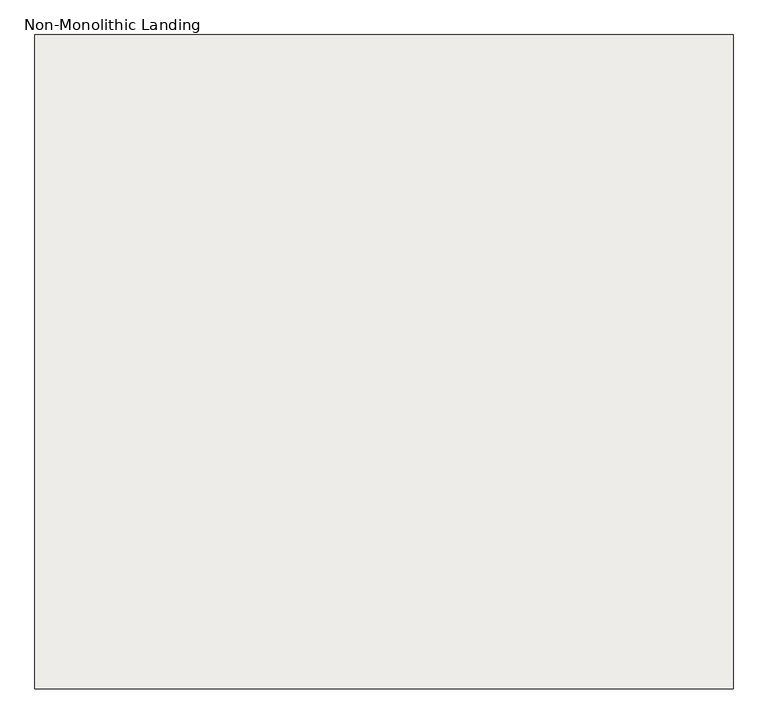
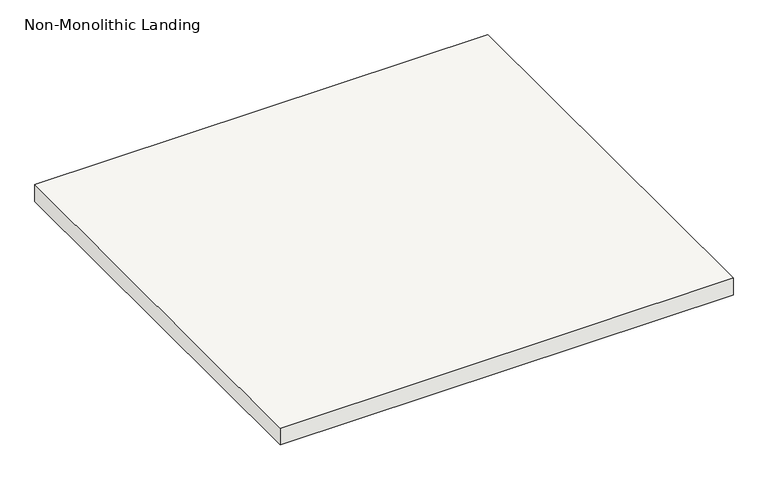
"""IFC4 building model written with IfcOpenShell, lengths in millimetres: slab geometry, Non-Monolithic Landing."""

from ifc_helpers import new_model, si_unit, frame, origin, place, context, project, spatial, polyline, outline, extrude, source, transform, mapped, element, save


def non_monolithic_landing_66f48692(model_context):
    return source(origin(), model_context, "Body", "SweptSolid", [
        extrude(outline(polyline([(-87319.0398328, 10139.2777512), (-88599.0398328, 10139.2777512), (-88599.0398328, 11339.2777512), (-87319.0398328, 11339.2777512), (-87319.0398328, 10139.2777512)])), frame((0.0, 0.0, 49304.6415784), z_axis=(0.0, 0.0, 1.0), x_axis=(1.0, 0.0, 0.0)), (0.0, 0.0, 1.0), 50.0),
    ])


if __name__ == "__main__":
    model = new_model("IFC4")
    model_context = context("Model", 3, world=origin())
    ifc_project = project(units=[si_unit("LENGTHUNIT", "METRE", prefix="MILLI")], contexts=[model_context])
    site = spatial("IfcSite", under=ifc_project)
    building = spatial("IfcBuilding", under=site)
    placement = place(None, origin())
    non_monolithic_landing_shape = non_monolithic_landing_66f48692(model_context)
    element("IfcSlab", 1, ObjectType="Non-Monolithic Landing", at=placement, inside=building, context=model_context, shape_type="MappedRepresentation", body=[
        mapped(non_monolithic_landing_shape, transform((0.0, 0.0, 0.0), x_axis=(1.0, 0.0, 0.0), y_axis=(0.0, 1.0, 0.0), z_axis=(0.0, 0.0, 1.0))),
    ])
    save(model, "model.ifc")
